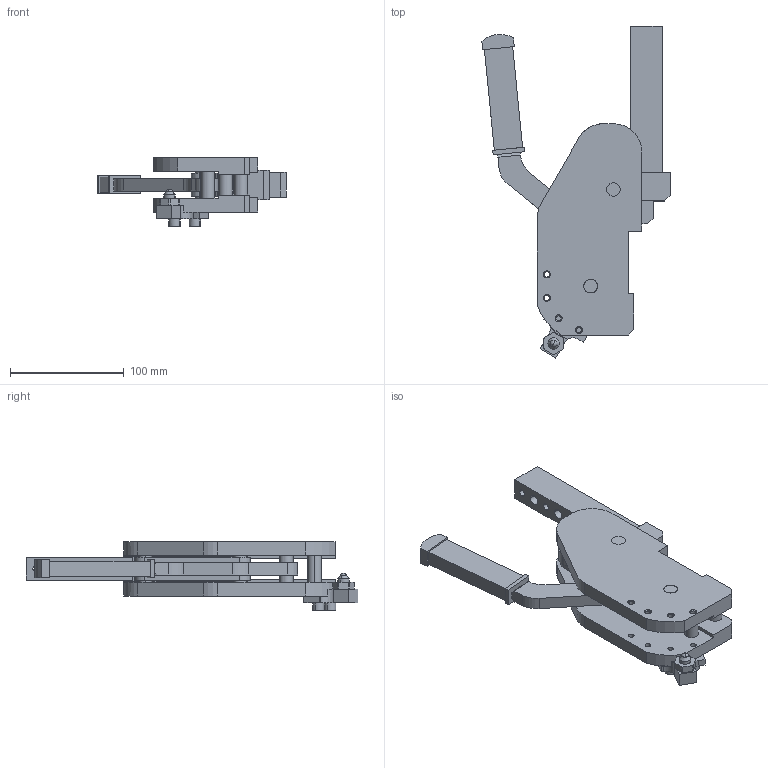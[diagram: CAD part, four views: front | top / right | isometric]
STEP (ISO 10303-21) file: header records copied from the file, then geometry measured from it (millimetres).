
FILE_DESCRIPTION (( 'STEP AP214' ), '1' );
FILE_NAME ('mc_o1c_ls.STEP', '2016-04-14T14:57:37', ( 'vepadmin' ), ( 'Hewlett-Packard Company' ), 'SwSTEP 2.0', 'SolidWorks 2015', '' );
FILE_SCHEMA (( 'AUTOMOTIVE_DESIGN' ));
Length unit declared in the file: millimetre
Products named in the file (7): biella_leva_mc_; leva_mc; gruppo_montante_mc; mc_o1c_ls; leva_v1c_o1c_mc; staffa_fermo_leva_mc; biella_mc
Assembly tree (7 placements, depth 2):
  mc_o1c_ls
    gruppo_montante_mc
    leva_mc
    biella_leva_mc_
    biella_mc  x2
    staffa_fermo_leva_mc
    leva_v1c_o1c_mc
Bounding box: 165.82 x 292.12 x 60.7 mm (x, y, z)
Volume: 586357.9 mm3; surface area: 144891.3 mm2
Topology: 7 solids, 7 shells, 380 faces, 965 edges, 609 vertices
Faces by surface type: plane 169, cylinder 151, cone 58, sphere 2
Entity records: 11960 total; most frequent: DIRECTION 1986, CARTESIAN_POINT 1860, ORIENTED_EDGE 1804, EDGE_CURVE 902, AXIS2_PLACEMENT_3D 709, VERTEX_POINT 583, VECTOR 568, LINE 568
